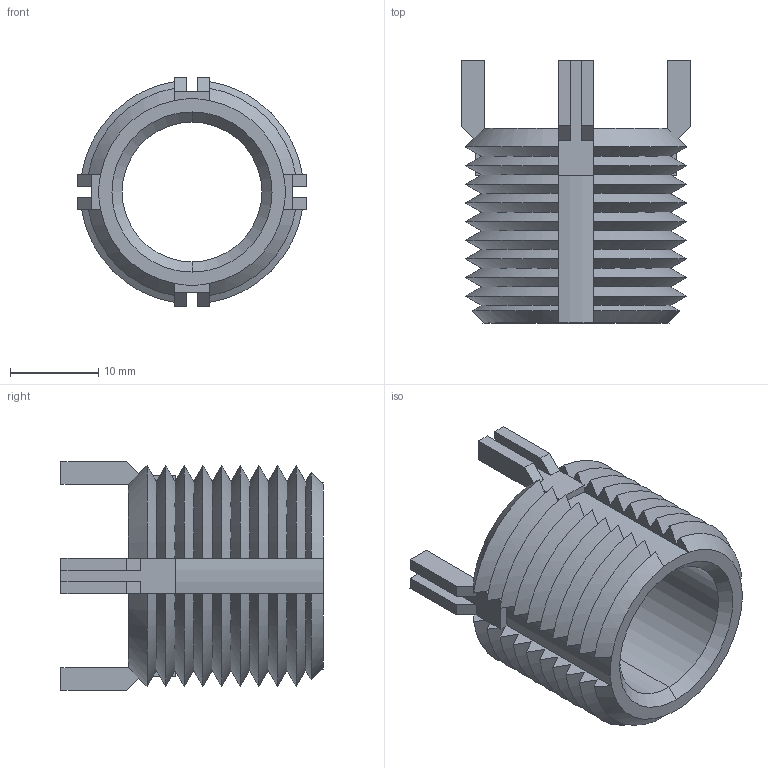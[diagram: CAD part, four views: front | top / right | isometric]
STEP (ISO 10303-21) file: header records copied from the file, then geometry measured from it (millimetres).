
FILE_DESCRIPTION (( 'STEP AP203' ), '1' );
FILE_NAME ('22034.W0400.step', '2023-04-20T09:58:29', ( '' ), ( '' ), 'SwSTEP 2.0', 'SolidWorks 2019', '' );
FILE_SCHEMA (( 'CONFIG_CONTROL_DESIGN' ));
Length unit declared in the file: millimetre
Products named in the file (1): 22034.W0400
Bounding box: 25.98 x 29.75 x 25.98 mm (x, y, z)
Volume: 5061.6 mm3; surface area: 4879.3 mm2
Topology: 1 solids, 1 shells, 180 faces, 474 edges, 296 vertices
Faces by surface type: plane 90, cone 84, cylinder 6
Entity records: 5763 total; most frequent: CARTESIAN_POINT 1575, ORIENTED_EDGE 948, DIRECTION 736, EDGE_CURVE 474, VERTEX_POINT 296, AXIS2_PLACEMENT_3D 281, B_SPLINE_CURVE_WITH_KNOTS 200, EDGE_LOOP 182
